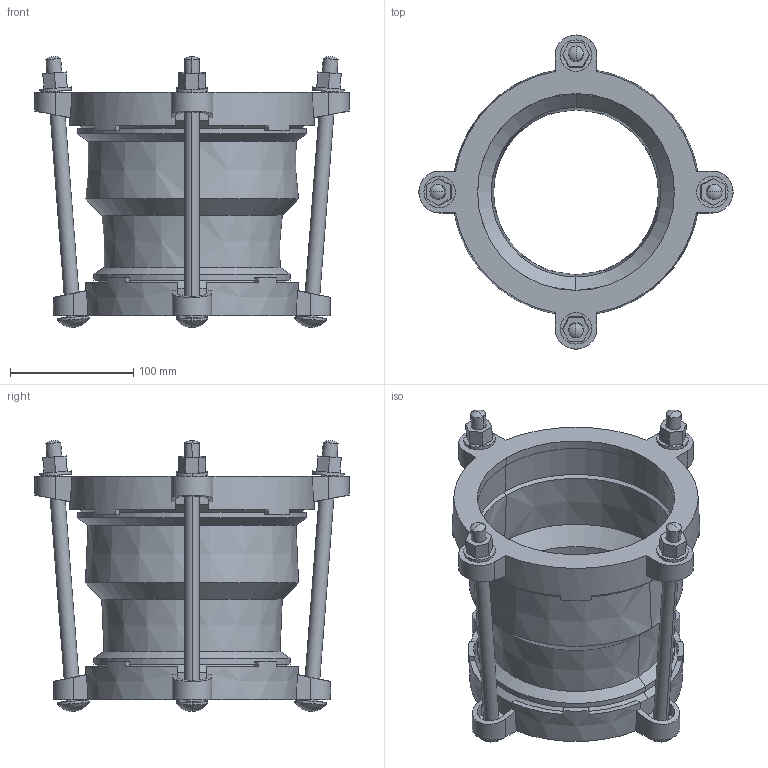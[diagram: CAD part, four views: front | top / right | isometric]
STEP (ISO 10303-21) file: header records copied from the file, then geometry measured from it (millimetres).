
FILE_DESCRIPTION((''),'2;1');
FILE_NAME('BIM_12395_5','2018-10-10T',('MReader'),(''),'CREO PARAMETRIC BY PTC INC, 2016130','CREO PARAMETRIC BY PTC INC, 2016130','');
FILE_SCHEMA(('CONFIG_CONTROL_DESIGN'));
Length unit declared in the file: millimetre
Products named in the file (1): BIM_12395_5
Bounding box: 254.5 x 254.5 x 219.35 mm (x, y, z)
Volume: 1021125.5 mm3; surface area: 316153.7 mm2
Topology: 2 solids, 2 shells, 282 faces, 732 edges, 460 vertices
Faces by surface type: plane 122, cylinder 84, cone 60, sphere 16
Entity records: 9173 total; most frequent: CARTESIAN_POINT 2371, ORIENTED_EDGE 1432, DIRECTION 1380, EDGE_CURVE 716, AXIS2_PLACEMENT_3D 526, VERTEX_POINT 460, VECTOR 328, LINE 328
